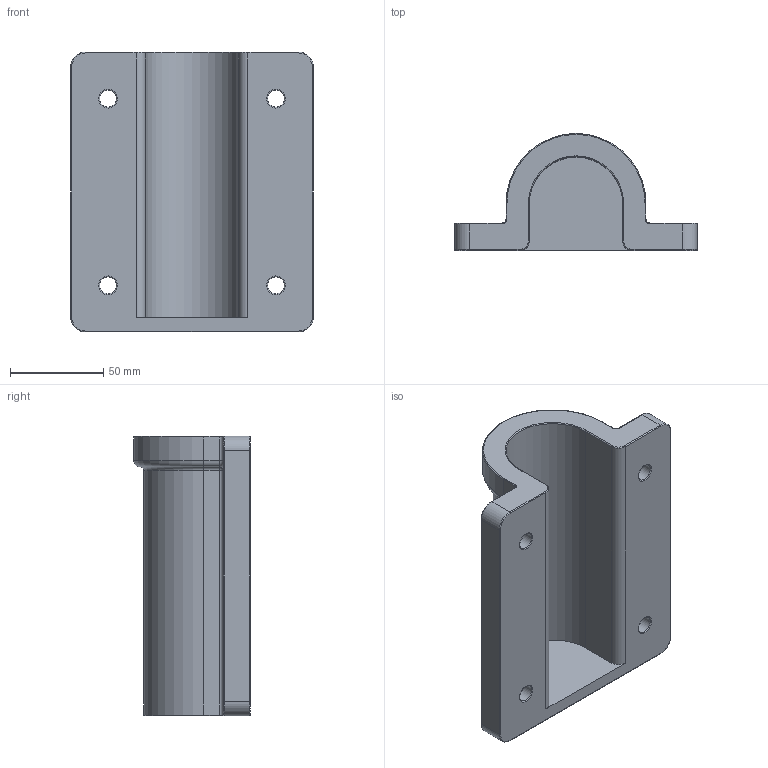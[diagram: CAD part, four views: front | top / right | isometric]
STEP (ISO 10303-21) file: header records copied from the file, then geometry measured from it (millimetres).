
FILE_DESCRIPTION(/* description */ ('FRP HANDRAIL FITTING'),/* implementation_level */ '2;1');
FILE_NAME(/* name */ 'C:\Users\Callum\The Trustee for INKSTONE UNIT TRUST\GRP Australia - Documents\8 Drawings\Handrails\3D Models\Handrail Fittings STEP\MH1-Wall Mount-G.stp',/* time_stamp */ '2022-09-12T13:11:05+10:00',/* author */ ('Callum'),/* organization */ (''),/* preprocessor_version */ 'ST-DEVELOPER v18.1',/* originating_system */ 'Autodesk Inventor 2022',/* authorisation */ '');
FILE_SCHEMA (('AUTOMOTIVE_DESIGN { 1 0 10303 214 3 1 1 }'));
Length unit declared in the file: millimetre
Products named in the file (1): MH1-Wall Mount-G
Bounding box: 130 x 62.5 x 150 mm (x, y, z)
Volume: 312526.5 mm3; surface area: 72354.2 mm2
Topology: 1 solids, 1 shells, 83 faces, 195 edges, 114 vertices
Faces by surface type: cylinder 38, torus 29, plane 14, sphere 2
Full cylindrical faces by diameter (mm): 9 x4
Entity records: 2446 total; most frequent: DIRECTION 485, CARTESIAN_POINT 393, ORIENTED_EDGE 390, AXIS2_PLACEMENT_3D 206, EDGE_CURVE 195, CIRCLE 122, VERTEX_POINT 114, EDGE_LOOP 91
